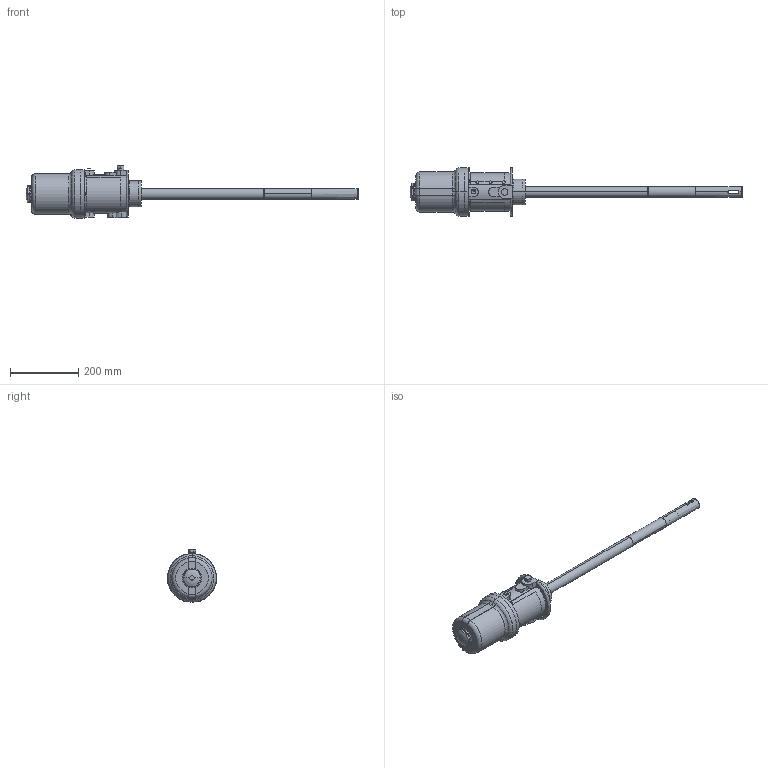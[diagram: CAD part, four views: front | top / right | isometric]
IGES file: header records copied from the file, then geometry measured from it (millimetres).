
Start section:  PTC IGES file: 239887-en-zab.igs
Global section: file name: 239887-en-zab.igs; native system: Creo Parametric by PTC Inc.; preprocessor: 2023424; author: qtmwp1; organization: Unknown; date: 20240523.114937; units: inch
Bounding box: 970.58 x 143.52 x 152.91 mm (x, y, z)
Surface area: 280889.2 mm2 (no closed solid volume)
Topology: 0 solids, 0 shells, 229 faces, 1151 edges, 1151 vertices
Faces by surface type: revolution 134, bspline 95
